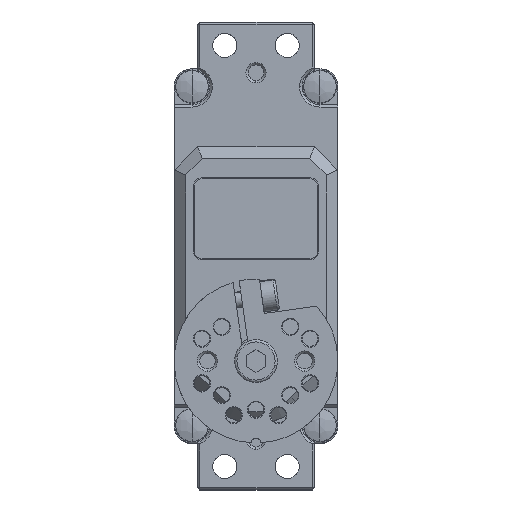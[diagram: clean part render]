
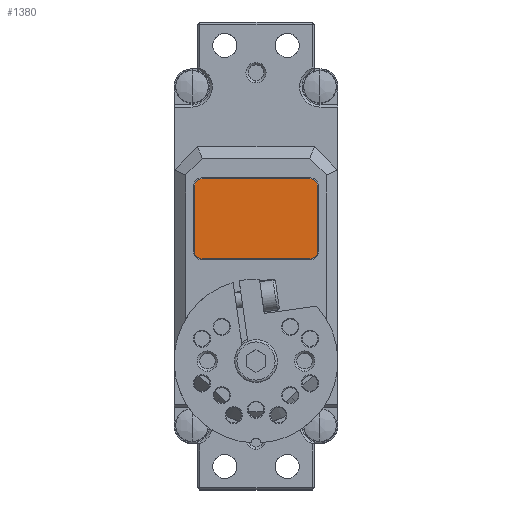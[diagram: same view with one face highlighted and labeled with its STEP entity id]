
A CAD part, top view. The second image highlights one B-rep face of the part: STEP entity #1380.
In plain terms, the highlighted planar face has unit normal (0, 0, 1).
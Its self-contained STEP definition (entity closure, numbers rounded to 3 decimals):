
#319 = VERTEX_POINT ( 'NONE', #24898 ) ;
#1380 = ADVANCED_FACE ( 'NONE', ( #3614 ), #3936, .F. ) ;
#1502 = VERTEX_POINT ( 'NONE', #2256 ) ;
#1703 = CARTESIAN_POINT ( 'NONE',  ( -7.9, -13.1, -0.07 ) ) ;
#2033 = CARTESIAN_POINT ( 'NONE',  ( 7.9, -13.1, -0.07 ) ) ;
#2256 = CARTESIAN_POINT ( 'NONE',  ( -7.9, -14.1, -0.07 ) ) ;
#3614 = FACE_OUTER_BOUND ( 'NONE', #13473, .T. ) ;
#3631 = CARTESIAN_POINT ( 'NONE',  ( 7.9, -13.1, -0.07 ) ) ;
#3847 = DIRECTION ( 'NONE',  ( -1., 0., 0. ) ) ;
#3936 = PLANE ( 'NONE',  #6398 ) ;
#4003 = VERTEX_POINT ( 'NONE', #16799 ) ;
#4100 = CARTESIAN_POINT ( 'NONE',  ( 7.9, -14.1, -0.07 ) ) ;
#4151 = EDGE_CURVE ( 'NONE', #30084, #319, #9879, .T. ) ;
#4697 = LINE ( 'NONE', #2033, #27200 ) ;
#4718 = VERTEX_POINT ( 'NONE', #22339 ) ;
#4805 = AXIS2_PLACEMENT_3D ( 'NONE', #25761, #18262, #23754 ) ;
#5164 = VERTEX_POINT ( 'NONE', #4100 ) ;
#5887 = LINE ( 'NONE', #16064, #16234 ) ;
#6398 = AXIS2_PLACEMENT_3D ( 'NONE', #8635, #21964, #18800 ) ;
#6470 = AXIS2_PLACEMENT_3D ( 'NONE', #12041, #14543, #17219 ) ;
#6532 = DIRECTION ( 'NONE',  ( 0., 0., -1. ) ) ;
#6546 = CIRCLE ( 'NONE', #28393, 1. ) ;
#6625 = CARTESIAN_POINT ( 'NONE',  ( -7.9, -22.4, -0.07 ) ) ;
#6980 = ORIENTED_EDGE ( 'NONE', *, *, #29269, .T. ) ;
#8635 = CARTESIAN_POINT ( 'NONE',  ( 0., -18.25, -0.07 ) ) ;
#9326 = LINE ( 'NONE', #3631, #28929 ) ;
#9600 = CIRCLE ( 'NONE', #4805, 1. ) ;
#9826 = ORIENTED_EDGE ( 'NONE', *, *, #25094, .F. ) ;
#9879 = CIRCLE ( 'NONE', #23697, 1. ) ;
#9954 = CARTESIAN_POINT ( 'NONE',  ( 6.9, -22.4, -0.07 ) ) ;
#11727 = LINE ( 'NONE', #1703, #13947 ) ;
#11898 = DIRECTION ( 'NONE',  ( 0., -1., 0. ) ) ;
#12041 = CARTESIAN_POINT ( 'NONE',  ( -6.9, -14.1, -0.07 ) ) ;
#12219 = ORIENTED_EDGE ( 'NONE', *, *, #22605, .F. ) ;
#12822 = DIRECTION ( 'NONE',  ( 0., 0., -1. ) ) ;
#13473 = EDGE_LOOP ( 'NONE', ( #6980, #16963, #19033, #9826, #22227, #22363, #16488, #12219 ) ) ;
#13947 = VECTOR ( 'NONE', #11898, 1000. ) ;
#13986 = DIRECTION ( 'NONE',  ( -1., 0., 0. ) ) ;
#14543 = DIRECTION ( 'NONE',  ( 0., 0., -1. ) ) ;
#14822 = CARTESIAN_POINT ( 'NONE',  ( -6.9, -22.4, -0.07 ) ) ;
#15981 = DIRECTION ( 'NONE',  ( -1., 0., 0. ) ) ;
#16064 = CARTESIAN_POINT ( 'NONE',  ( 7.9, -23.4, -0.07 ) ) ;
#16234 = VECTOR ( 'NONE', #26406, 1000. ) ;
#16415 = EDGE_CURVE ( 'NONE', #17033, #319, #5887, .T. ) ;
#16488 = ORIENTED_EDGE ( 'NONE', *, *, #22993, .T. ) ;
#16702 = VERTEX_POINT ( 'NONE', #6625 ) ;
#16799 = CARTESIAN_POINT ( 'NONE',  ( -6.9, -13.1, -0.07 ) ) ;
#16963 = ORIENTED_EDGE ( 'NONE', *, *, #27583, .F. ) ;
#17033 = VERTEX_POINT ( 'NONE', #17971 ) ;
#17219 = DIRECTION ( 'NONE',  ( -1., 0., 0. ) ) ;
#17971 = CARTESIAN_POINT ( 'NONE',  ( -6.9, -23.4, -0.07 ) ) ;
#18262 = DIRECTION ( 'NONE',  ( 0., 0., -1. ) ) ;
#18800 = DIRECTION ( 'NONE',  ( -1., 0., 0. ) ) ;
#19033 = ORIENTED_EDGE ( 'NONE', *, *, #24125, .T. ) ;
#19074 = CARTESIAN_POINT ( 'NONE',  ( 7.9, -22.4, -0.07 ) ) ;
#21964 = DIRECTION ( 'NONE',  ( 0., 0., -1. ) ) ;
#22227 = ORIENTED_EDGE ( 'NONE', *, *, #16415, .T. ) ;
#22339 = CARTESIAN_POINT ( 'NONE',  ( 6.9, -13.1, -0.07 ) ) ;
#22363 = ORIENTED_EDGE ( 'NONE', *, *, #4151, .F. ) ;
#22605 = EDGE_CURVE ( 'NONE', #4718, #5164, #9600, .T. ) ;
#22993 = EDGE_CURVE ( 'NONE', #30084, #5164, #4697, .T. ) ;
#23697 = AXIS2_PLACEMENT_3D ( 'NONE', #9954, #6532, #3847 ) ;
#23754 = DIRECTION ( 'NONE',  ( -1., 0., 0. ) ) ;
#24125 = EDGE_CURVE ( 'NONE', #1502, #16702, #11727, .T. ) ;
#24898 = CARTESIAN_POINT ( 'NONE',  ( 6.9, -23.4, -0.07 ) ) ;
#25094 = EDGE_CURVE ( 'NONE', #17033, #16702, #6546, .T. ) ;
#25761 = CARTESIAN_POINT ( 'NONE',  ( 6.9, -14.1, -0.07 ) ) ;
#26406 = DIRECTION ( 'NONE',  ( 1., 0., 0. ) ) ;
#27200 = VECTOR ( 'NONE', #30405, 1000. ) ;
#27583 = EDGE_CURVE ( 'NONE', #1502, #4003, #30431, .T. ) ;
#28393 = AXIS2_PLACEMENT_3D ( 'NONE', #14822, #12822, #15981 ) ;
#28929 = VECTOR ( 'NONE', #13986, 1000. ) ;
#29269 = EDGE_CURVE ( 'NONE', #4718, #4003, #9326, .T. ) ;
#30084 = VERTEX_POINT ( 'NONE', #19074 ) ;
#30405 = DIRECTION ( 'NONE',  ( 0., 1., 0. ) ) ;
#30431 = CIRCLE ( 'NONE', #6470, 1. ) ;
